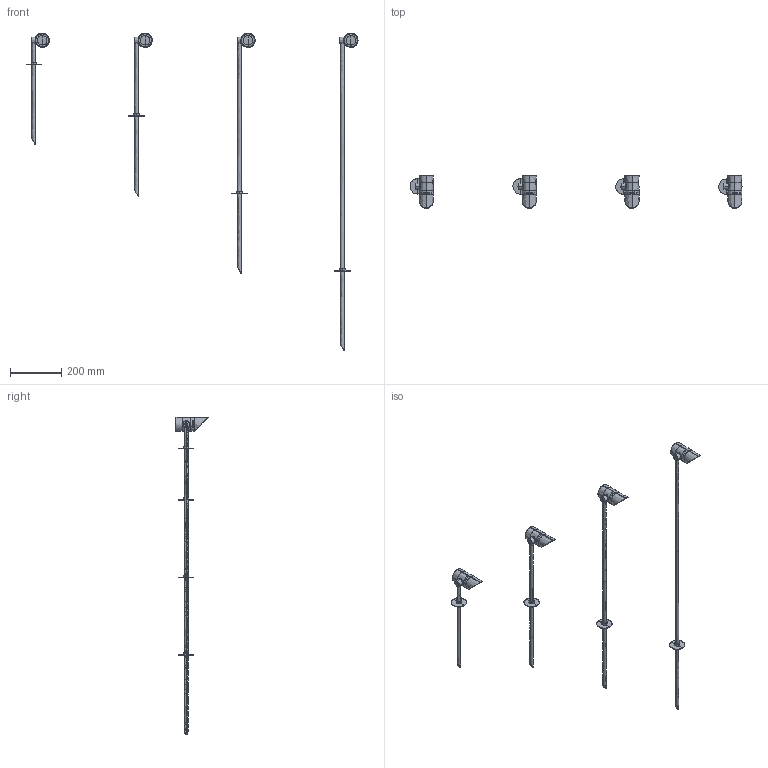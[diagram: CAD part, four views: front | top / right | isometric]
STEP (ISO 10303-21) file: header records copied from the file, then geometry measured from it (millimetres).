
FILE_DESCRIPTION(/* description */ (''),/* implementation_level */ '2;1');
FILE_NAME(/* name */ 'Spike 6',/* time_stamp */ '2025-06-19T10:34:24+02:00',/* author */ (''),/* organization */ (''),/* preprocessor_version */ 'ST-DEVELOPER v15',/* originating_system */ '',/* authorisation */ '');
FILE_SCHEMA (('CONFIG_CONTROL_DESIGN'));
Products named in the file (1): Document
Bounding box: 1290.49 x 127.43 x 1234.49 mm (x, y, z)
Volume: 734673.7 mm3; surface area: 523669.2 mm2
Topology: 45 solids, 45 shells, 1532 faces, 3547 edges, 2012 vertices
Faces by surface type: bspline 1532
Entity records: 123141 total; most frequent: CARTESIAN_POINT 79010, B_SPLINE_CURVE_WITH_KNOTS 8805, ORIENTED_EDGE 6964, PCURVE 6964, DEFINITIONAL_REPRESENTATION 6964, SURFACE_CURVE 3482, EDGE_CURVE 3482, VERTEX_POINT 2010
